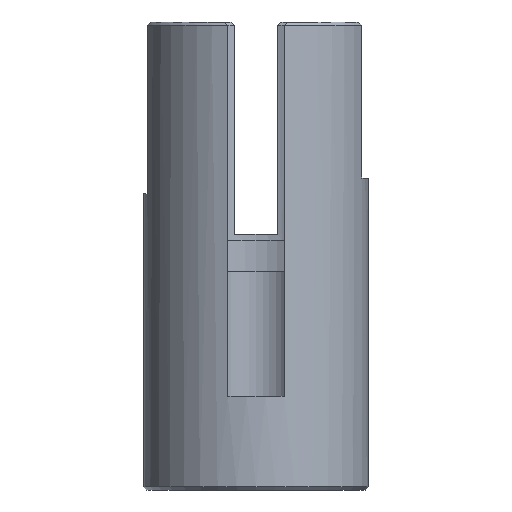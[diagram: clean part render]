
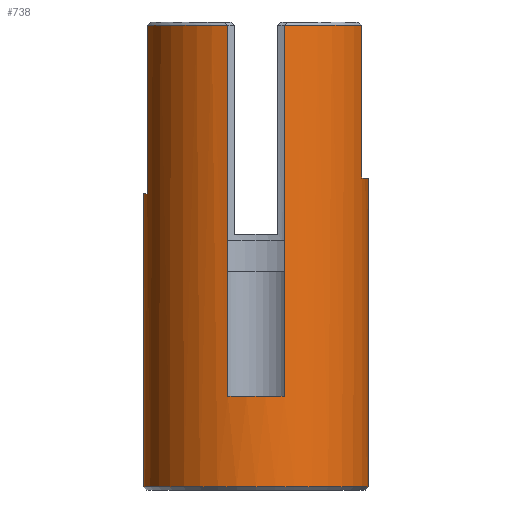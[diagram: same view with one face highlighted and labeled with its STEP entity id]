
A CAD part, front view. The second image highlights one B-rep face of the part: STEP entity #738.
In plain terms, the highlighted cylindrical face has radius 18 mm (diameter 36 mm), a partial arc.
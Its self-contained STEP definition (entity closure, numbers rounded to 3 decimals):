
#290=AXIS2_PLACEMENT_3D('Circle Axis2P3D',#288,#289,$) ;
#433=AXIS2_PLACEMENT_3D('Circle Axis2P3D',#431,#432,$) ;
#543=AXIS2_PLACEMENT_3D('Circle Axis2P3D',#541,#542,$) ;
#569=AXIS2_PLACEMENT_3D('Circle Axis2P3D',#567,#568,$) ;
#621=AXIS2_PLACEMENT_3D('Cylinder Axis2P3D',#618,#619,#620) ;
#702=AXIS2_PLACEMENT_3D('Circle Axis2P3D',#700,#701,$) ;
#721=AXIS2_PLACEMENT_3D('Circle Axis2P3D',#719,#720,$) ;
#278=CARTESIAN_POINT('Vertex',(-18.,0.,0.5)) ;
#285=CARTESIAN_POINT('Vertex',(18.,0.,0.5)) ;
#288=CARTESIAN_POINT('Axis2P3D Location',(0.,0.,0.5)) ;
#431=CARTESIAN_POINT('Axis2P3D Location',(0.,0.,15.)) ;
#435=CARTESIAN_POINT('Vertex',(-4.5,-17.428,15.)) ;
#437=CARTESIAN_POINT('Vertex',(4.5,-17.428,15.)) ;
#538=CARTESIAN_POINT('Vertex',(-18.,0.,47.5)) ;
#541=CARTESIAN_POINT('Axis2P3D Location',(0.,0.,47.5)) ;
#545=CARTESIAN_POINT('Vertex',(-17.428,-4.5,47.5)) ;
#567=CARTESIAN_POINT('Axis2P3D Location',(0.,0.,50.)) ;
#571=CARTESIAN_POINT('Vertex',(16.971,-6.,50.)) ;
#573=CARTESIAN_POINT('Vertex',(18.,0.,50.)) ;
#618=CARTESIAN_POINT('Axis2P3D Location',(0.,0.,20.)) ;
#630=CARTESIAN_POINT('Line Origine',(18.,0.,37.5)) ;
#635=CARTESIAN_POINT('Line Origine',(-18.,0.,37.5)) ;
#686=CARTESIAN_POINT('Line Origine',(4.5,-17.428,37.5)) ;
#690=CARTESIAN_POINT('Vertex',(4.5,-17.428,74.5)) ;
#693=CARTESIAN_POINT('Line Origine',(-4.5,-17.428,37.5)) ;
#697=CARTESIAN_POINT('Vertex',(-4.5,-17.428,74.5)) ;
#700=CARTESIAN_POINT('Axis2P3D Location',(0.,0.,74.5)) ;
#704=CARTESIAN_POINT('Vertex',(-17.428,-4.5,74.5)) ;
#707=CARTESIAN_POINT('Line Origine',(-17.428,-4.5,37.5)) ;
#712=CARTESIAN_POINT('Line Origine',(16.971,-6.,37.5)) ;
#716=CARTESIAN_POINT('Vertex',(16.971,-6.,74.5)) ;
#719=CARTESIAN_POINT('Axis2P3D Location',(0.,0.,74.5)) ;
#289=DIRECTION('Axis2P3D Direction',(0.,0.,1.)) ;
#432=DIRECTION('Axis2P3D Direction',(0.,0.,1.)) ;
#542=DIRECTION('Axis2P3D Direction',(0.,0.,1.)) ;
#568=DIRECTION('Axis2P3D Direction',(0.,0.,1.)) ;
#619=DIRECTION('Axis2P3D Direction',(0.,0.,1.)) ;
#620=DIRECTION('Axis2P3D XDirection',(1.,0.,0.)) ;
#631=DIRECTION('Vector Direction',(0.,0.,1.)) ;
#636=DIRECTION('Vector Direction',(0.,0.,1.)) ;
#687=DIRECTION('Vector Direction',(0.,0.,1.)) ;
#694=DIRECTION('Vector Direction',(0.,0.,1.)) ;
#701=DIRECTION('Axis2P3D Direction',(0.,0.,1.)) ;
#708=DIRECTION('Vector Direction',(0.,0.,1.)) ;
#713=DIRECTION('Vector Direction',(0.,0.,1.)) ;
#720=DIRECTION('Axis2P3D Direction',(0.,0.,1.)) ;
#632=VECTOR('Line Direction',#631,1.) ;
#637=VECTOR('Line Direction',#636,1.) ;
#688=VECTOR('Line Direction',#687,1.) ;
#695=VECTOR('Line Direction',#694,1.) ;
#709=VECTOR('Line Direction',#708,1.) ;
#714=VECTOR('Line Direction',#713,1.) ;
#725=ORIENTED_EDGE('',*,*,#692,.F.) ;
#726=ORIENTED_EDGE('',*,*,#439,.F.) ;
#727=ORIENTED_EDGE('',*,*,#699,.T.) ;
#728=ORIENTED_EDGE('',*,*,#706,.F.) ;
#729=ORIENTED_EDGE('',*,*,#711,.T.) ;
#730=ORIENTED_EDGE('',*,*,#547,.F.) ;
#731=ORIENTED_EDGE('',*,*,#639,.F.) ;
#732=ORIENTED_EDGE('',*,*,#292,.T.) ;
#733=ORIENTED_EDGE('',*,*,#634,.T.) ;
#734=ORIENTED_EDGE('',*,*,#575,.F.) ;
#735=ORIENTED_EDGE('',*,*,#718,.F.) ;
#736=ORIENTED_EDGE('',*,*,#723,.F.) ;
#738=ADVANCED_FACE('\X2\96F64EF651E04F554F53\X0\',(#737),#622,.T.) ;
#291=CIRCLE('generated circle',#290,18.) ;
#434=CIRCLE('generated circle',#433,18.) ;
#544=CIRCLE('generated circle',#543,18.) ;
#570=CIRCLE('generated circle',#569,18.) ;
#703=CIRCLE('generated circle',#702,18.) ;
#722=CIRCLE('generated circle',#721,18.) ;
#622=CYLINDRICAL_SURFACE('generated cylinder',#621,18.) ;
#292=EDGE_CURVE('',#279,#286,#291,.T.) ;
#439=EDGE_CURVE('',#436,#438,#434,.T.) ;
#547=EDGE_CURVE('',#539,#546,#544,.T.) ;
#575=EDGE_CURVE('',#572,#574,#570,.T.) ;
#634=EDGE_CURVE('',#286,#574,#633,.T.) ;
#639=EDGE_CURVE('',#279,#539,#638,.T.) ;
#692=EDGE_CURVE('',#438,#691,#689,.T.) ;
#699=EDGE_CURVE('',#436,#698,#696,.T.) ;
#706=EDGE_CURVE('',#705,#698,#703,.T.) ;
#711=EDGE_CURVE('',#705,#546,#710,.F.) ;
#718=EDGE_CURVE('',#717,#572,#715,.F.) ;
#723=EDGE_CURVE('',#691,#717,#722,.T.) ;
#724=EDGE_LOOP('',(#725,#726,#727,#728,#729,#730,#731,#732,#733,#734,#735,#736)) ;
#737=FACE_OUTER_BOUND('',#724,.T.) ;
#633=LINE('Line',#630,#632) ;
#638=LINE('Line',#635,#637) ;
#689=LINE('Line',#686,#688) ;
#696=LINE('Line',#693,#695) ;
#710=LINE('Line',#707,#709) ;
#715=LINE('Line',#712,#714) ;
#279=VERTEX_POINT('',#278) ;
#286=VERTEX_POINT('',#285) ;
#436=VERTEX_POINT('',#435) ;
#438=VERTEX_POINT('',#437) ;
#539=VERTEX_POINT('',#538) ;
#546=VERTEX_POINT('',#545) ;
#572=VERTEX_POINT('',#571) ;
#574=VERTEX_POINT('',#573) ;
#691=VERTEX_POINT('',#690) ;
#698=VERTEX_POINT('',#697) ;
#705=VERTEX_POINT('',#704) ;
#717=VERTEX_POINT('',#716) ;
